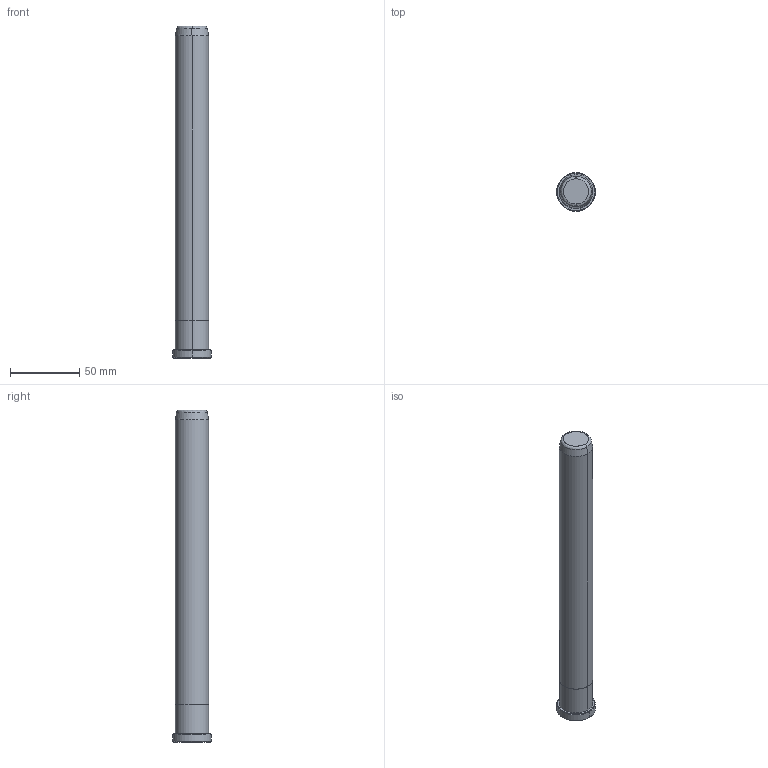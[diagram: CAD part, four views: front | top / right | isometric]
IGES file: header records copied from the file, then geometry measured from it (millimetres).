
Start section: START RECORD GO HERE.
Global section: file name: B82824240.igs; native system: DASSAULT SYSTEMES CATIA V5 R20 - www.3ds.com; preprocessor: CATIA Version 5 Release 20 ; author: Utente; organization: NB04-ASUS; date: 20200419.173423; units: millimetre
Bounding box: 28 x 28 x 240 mm (x, y, z)
Surface area: 19204.4 mm2 (no closed solid volume)
Topology: 0 solids, 0 shells, 20 faces, 80 edges, 80 vertices
Faces by surface type: revolution 16, plane 4
